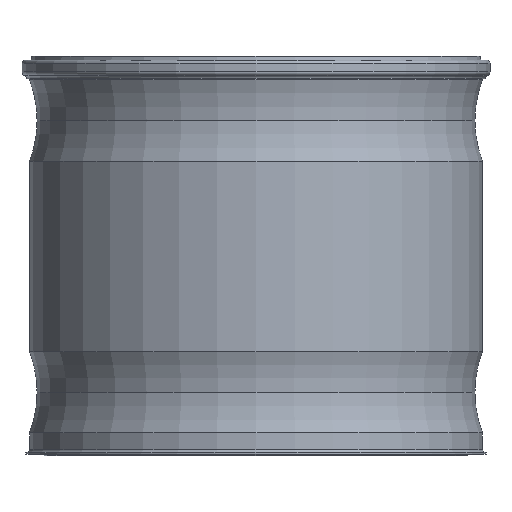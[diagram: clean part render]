
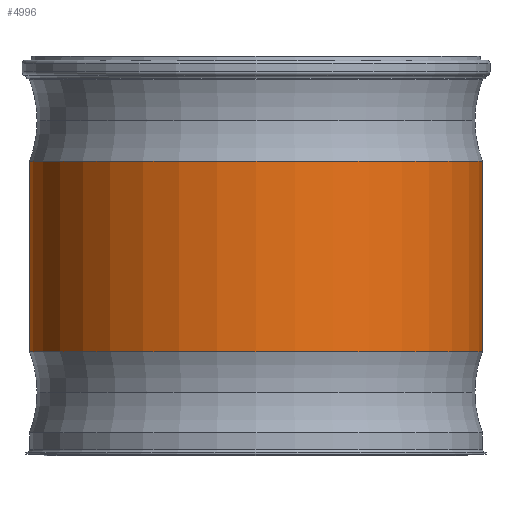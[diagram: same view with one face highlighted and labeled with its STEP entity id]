
A CAD part, front view. The second image highlights one B-rep face of the part: STEP entity #4996.
In plain terms, the highlighted cylindrical face has radius 30 mm (diameter 60 mm), a partial arc.
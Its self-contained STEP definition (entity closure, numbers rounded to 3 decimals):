
#38 = CARTESIAN_POINT ( 'NONE',  ( -109.08, -67.791, 80.209 ) ) ;
#379 = VECTOR ( 'NONE', #1430, 1000. ) ;
#404 = AXIS2_PLACEMENT_3D ( 'NONE', #7118, #3734, #4829 ) ;
#643 = EDGE_CURVE ( 'NONE', #2326, #6375, #6808, .T. ) ;
#652 = DIRECTION ( 'NONE',  ( 0., 0., -1. ) ) ;
#857 = LINE ( 'NONE', #4804, #379 ) ;
#1066 = ORIENTED_EDGE ( 'NONE', *, *, #1926, .F. ) ;
#1235 = DIRECTION ( 'NONE',  ( 0., 0., -1. ) ) ;
#1430 = DIRECTION ( 'NONE',  ( 0., 0., -1. ) ) ;
#1688 = ORIENTED_EDGE ( 'NONE', *, *, #643, .F. ) ;
#1768 = CARTESIAN_POINT ( 'NONE',  ( -109.08, -67.791, 52.594 ) ) ;
#1780 = CIRCLE ( 'NONE', #404, 30. ) ;
#1926 = EDGE_CURVE ( 'NONE', #6375, #5601, #857, .T. ) ;
#2107 = CARTESIAN_POINT ( 'NONE',  ( -49.08, -67.791, 77.824 ) ) ;
#2326 = VERTEX_POINT ( 'NONE', #3397 ) ;
#2728 = ORIENTED_EDGE ( 'NONE', *, *, #7101, .T. ) ;
#3370 = LINE ( 'NONE', #38, #4138 ) ;
#3375 = CARTESIAN_POINT ( 'NONE',  ( -79.08, -67.791, 80.209 ) ) ;
#3397 = CARTESIAN_POINT ( 'NONE',  ( -109.08, -67.791, 77.824 ) ) ;
#3607 = EDGE_CURVE ( 'NONE', #5601, #3691, #1780, .T. ) ;
#3691 = VERTEX_POINT ( 'NONE', #1768 ) ;
#3734 = DIRECTION ( 'NONE',  ( 0., 0., -1. ) ) ;
#4054 = DIRECTION ( 'NONE',  ( -1., 0., 0. ) ) ;
#4138 = VECTOR ( 'NONE', #652, 1000. ) ;
#4514 = AXIS2_PLACEMENT_3D ( 'NONE', #6718, #5686, #6188 ) ;
#4530 = CYLINDRICAL_SURFACE ( 'NONE', #6879, 30. ) ;
#4693 = EDGE_LOOP ( 'NONE', ( #1066, #1688, #2728, #6198 ) ) ;
#4804 = CARTESIAN_POINT ( 'NONE',  ( -49.08, -67.791, 80.209 ) ) ;
#4829 = DIRECTION ( 'NONE',  ( -1., 0., 0. ) ) ;
#4996 = ADVANCED_FACE ( 'NONE', ( #6221 ), #4530, .T. ) ;
#5601 = VERTEX_POINT ( 'NONE', #5990 ) ;
#5686 = DIRECTION ( 'NONE',  ( 0., 0., 1. ) ) ;
#5990 = CARTESIAN_POINT ( 'NONE',  ( -49.08, -67.791, 52.594 ) ) ;
#6188 = DIRECTION ( 'NONE',  ( 1., 0., 0. ) ) ;
#6198 = ORIENTED_EDGE ( 'NONE', *, *, #3607, .F. ) ;
#6221 = FACE_OUTER_BOUND ( 'NONE', #4693, .T. ) ;
#6375 = VERTEX_POINT ( 'NONE', #2107 ) ;
#6718 = CARTESIAN_POINT ( 'NONE',  ( -79.08, -67.791, 77.824 ) ) ;
#6808 = CIRCLE ( 'NONE', #4514, 30. ) ;
#6879 = AXIS2_PLACEMENT_3D ( 'NONE', #3375, #1235, #4054 ) ;
#7101 = EDGE_CURVE ( 'NONE', #2326, #3691, #3370, .T. ) ;
#7118 = CARTESIAN_POINT ( 'NONE',  ( -79.08, -67.791, 52.594 ) ) ;
